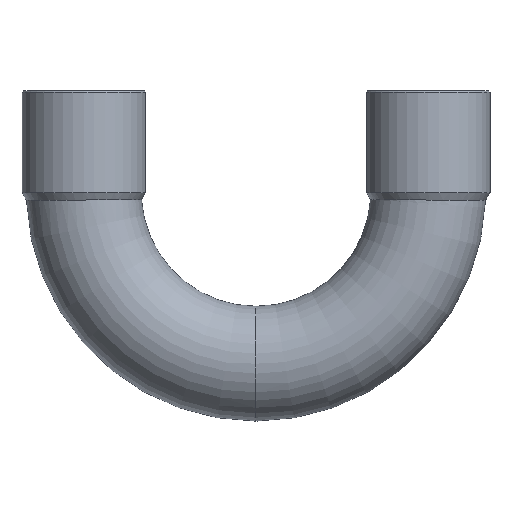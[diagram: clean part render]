
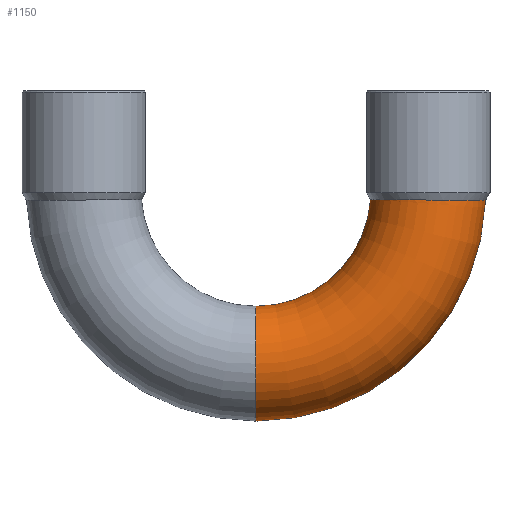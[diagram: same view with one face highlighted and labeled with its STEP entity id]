
A CAD part, front view. The second image highlights one B-rep face of the part: STEP entity #1150.
In plain terms, the highlighted toroidal (fillet/blend) face has major radius 24 mm and minor radius 8 mm.
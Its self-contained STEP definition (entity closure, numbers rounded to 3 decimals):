
#51=CARTESIAN_POINT('',(22.035,0.,-32.0));
#52=VERTEX_POINT('',#51);
#85=CARTESIAN_POINT('',(22.035,0.,-16.));
#86=VERTEX_POINT('',#85);
#109=CARTESIAN_POINT('',(54.011,0.,-1.242));
#110=VERTEX_POINT('',#109);
#111=CARTESIAN_POINT('',(22.035,0.,0.0));
#112=DIRECTION('',(0.0,-1.0,0.0));
#113=DIRECTION('',(0.0,0.0,-1.0));
#114=AXIS2_PLACEMENT_3D('',#111,#112,#113);
#115=CIRCLE('',#114,32.0);
#116=EDGE_CURVE('',#52,#110,#115,.T.);
#119=CARTESIAN_POINT('',(37.995,0.,-1.131));
#120=VERTEX_POINT('',#119);
#121=CARTESIAN_POINT('',(22.035,0.,0.0));
#122=DIRECTION('',(0.0,1.0,0.0));
#123=DIRECTION('',(0.0,0.0,-1.0));
#124=AXIS2_PLACEMENT_3D('',#121,#122,#123);
#125=CIRCLE('',#124,16.);
#126=EDGE_CURVE('',#120,#86,#125,.T.);
#1111=CARTESIAN_POINT('',(22.035,0.,0.0));
#1112=DIRECTION('',(0.0,-1.0,0.0));
#1113=DIRECTION('',(0.0,0.0,-1.0));
#1114=AXIS2_PLACEMENT_3D('',#1111,#1112,#1113);
#1115=TOROIDAL_SURFACE('',#1114,24.,8.0);
#1116=ORIENTED_EDGE('',*,*,#116,.T.);
#1117=CARTESIAN_POINT('',(54.011,0.,-1.242));
#1118=CARTESIAN_POINT('',(54.011,-0.59,-1.242));
#1119=CARTESIAN_POINT('',(53.946,-1.177,-1.241));
#1120=CARTESIAN_POINT('',(53.687,-2.328,-1.24));
#1121=CARTESIAN_POINT('',(53.495,-2.887,-1.24));
#1122=CARTESIAN_POINT('',(52.797,-4.362,-1.237));
#1123=CARTESIAN_POINT('',(52.172,-5.207,-1.234));
#1124=CARTESIAN_POINT('',(50.631,-6.612,-1.226));
#1125=CARTESIAN_POINT('',(49.731,-7.157,-1.222));
#1126=CARTESIAN_POINT('',(47.771,-7.873,-1.211));
#1127=CARTESIAN_POINT('',(46.73,-8.035,-1.205));
#1128=CARTESIAN_POINT('',(44.644,-7.952,-1.191));
#1129=CARTESIAN_POINT('',(43.619,-7.707,-1.183));
#1130=CARTESIAN_POINT('',(41.721,-6.839,-1.168));
#1131=CARTESIAN_POINT('',(40.867,-6.224,-1.16));
#1132=CARTESIAN_POINT('',(39.443,-4.703,-1.147));
#1133=CARTESIAN_POINT('',(38.886,-3.812,-1.141));
#1134=CARTESIAN_POINT('',(38.172,-1.931,-1.133));
#1135=CARTESIAN_POINT('',(37.995,-0.969,-1.131));
#1136=CARTESIAN_POINT('',(37.995,0.,-1.131));
#1137=B_SPLINE_CURVE_WITH_KNOTS('',3,(#1117,#1118,#1119,#1120,#1121,#1122,#1123,#1124,#1125,#1126,#1127,#1128,#1129,#1130,#1131,#1132,#1133,#1134,#1135,#1136),.UNSPECIFIED.,.F.,.U.,(4,2,2,2,2,2,2,2,2,4),(-5.044,-4.867,-4.69,-4.378,-4.065,-3.752,-3.439,-3.126,-2.814,-2.522),.UNSPECIFIED.);
#1138=EDGE_CURVE('',#110,#120,#1137,.T.);
#1139=ORIENTED_EDGE('',*,*,#1138,.T.);
#1140=ORIENTED_EDGE('',*,*,#126,.T.);
#1141=CARTESIAN_POINT('',(22.035,0.,-24.));
#1142=DIRECTION('',(-1.0,0.0,0.0));
#1143=DIRECTION('',(0.0,0.0,-1.0));
#1144=AXIS2_PLACEMENT_3D('',#1141,#1142,#1143);
#1145=CIRCLE('',#1144,8.0);
#1146=EDGE_CURVE('',#52,#86,#1145,.T.);
#1147=ORIENTED_EDGE('',*,*,#1146,.F.);
#1148=EDGE_LOOP('',(#1116,#1139,#1140,#1147));
#1149=FACE_OUTER_BOUND('',#1148,.T.);
#1150=ADVANCED_FACE('',(#1149),#1115,.T.);
